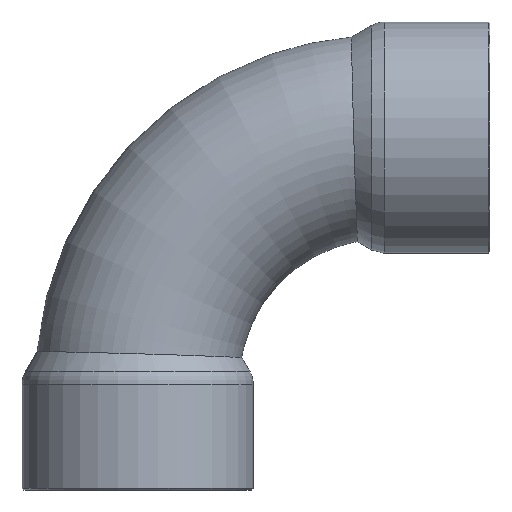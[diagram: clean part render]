
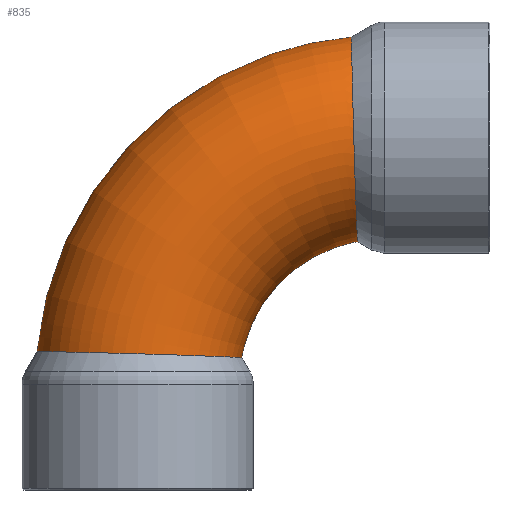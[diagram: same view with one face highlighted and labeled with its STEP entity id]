
A CAD part, left-side view. The second image highlights one B-rep face of the part: STEP entity #835.
In plain terms, the highlighted toroidal (fillet/blend) face has major radius 64.8 mm and minor radius 26.985 mm.
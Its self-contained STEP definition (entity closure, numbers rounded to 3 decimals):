
#446=CARTESIAN_POINT('',(0.,8.2,91.418));
#447=VERTEX_POINT('',#446);
#448=CARTESIAN_POINT('',(0.,8.2,91.418));
#449=CARTESIAN_POINT('',(1.909,8.2,91.418));
#450=CARTESIAN_POINT('',(3.813,8.196,91.215));
#451=CARTESIAN_POINT('',(7.507,8.18,90.418));
#452=CARTESIAN_POINT('',(9.288,8.168,89.834));
#453=CARTESIAN_POINT('',(14.252,8.122,87.615));
#454=CARTESIAN_POINT('',(17.188,8.079,85.526));
#455=CARTESIAN_POINT('',(22.078,7.964,80.327));
#456=CARTESIAN_POINT('',(23.984,7.894,77.268));
#457=CARTESIAN_POINT('',(26.504,7.728,70.581));
#458=CARTESIAN_POINT('',(27.09,7.635,67.019));
#459=CARTESIAN_POINT('',(26.849,7.428,59.855));
#460=CARTESIAN_POINT('',(26.018,7.318,56.324));
#461=CARTESIAN_POINT('',(23.079,7.097,49.891));
#462=CARTESIAN_POINT('',(21.038,6.99,47.032));
#463=CARTESIAN_POINT('',(15.909,6.793,42.169));
#464=CARTESIAN_POINT('',(12.84,6.708,40.241));
#465=CARTESIAN_POINT('',(7.524,6.616,38.233));
#466=CARTESIAN_POINT('',(5.487,6.591,37.724));
#467=CARTESIAN_POINT('',(2.058,6.571,37.285));
#468=CARTESIAN_POINT('',(0.694,6.567,37.214));
#469=CARTESIAN_POINT('',(-2.144,6.571,37.285));
#470=CARTESIAN_POINT('',(-3.614,6.578,37.444));
#471=CARTESIAN_POINT('',(-7.935,6.617,38.275));
#472=CARTESIAN_POINT('',(-10.698,6.665,39.294));
#473=CARTESIAN_POINT('',(-16.352,6.806,42.498));
#474=CARTESIAN_POINT('',(-19.079,6.905,44.86));
#475=CARTESIAN_POINT('',(-23.359,7.114,50.37));
#476=CARTESIAN_POINT('',(-24.923,7.222,53.428));
#477=CARTESIAN_POINT('',(-26.813,7.428,59.862));
#478=CARTESIAN_POINT('',(-27.159,7.526,63.174));
#479=CARTESIAN_POINT('',(-26.648,7.707,69.745));
#480=CARTESIAN_POINT('',(-25.799,7.788,72.95));
#481=CARTESIAN_POINT('',(-22.98,7.932,78.932));
#482=CARTESIAN_POINT('',(-21.022,7.994,81.652));
#483=CARTESIAN_POINT('',(-16.166,8.095,86.292));
#484=CARTESIAN_POINT('',(-13.294,8.133,88.152));
#485=CARTESIAN_POINT('',(-6.928,8.186,90.743));
#486=CARTESIAN_POINT('',(-3.481,8.2,91.418));
#487=CARTESIAN_POINT('',(0.0,8.2,91.418));
#488=B_SPLINE_CURVE_WITH_KNOTS('',3,(#448,#449,#450,#451,#452,#453,#454,#455,#456,#457,#458,#459,#460,#461,#462,#463,#464,#465,#466,#467,#468,#469,#470,#471,#472,#473,#474,#475,#476,#477,#478,#479,#480,#481,#482,#483,#484,#485,#486,#487),.UNSPECIFIED.,.T.,.U.,(4,2,2,2,2,2,2,2,2,2,2,2,2,2,2,2,2,2,2,4),(-17.035,-16.462,-15.902,-14.831,-13.76,-12.687,-11.609,-10.565,-9.488,-8.86,-8.451,-8.008,-7.131,-6.058,-5.037,-4.046,-3.059,-2.062,-1.044,0.0),.UNSPECIFIED.);
#489=EDGE_CURVE('',#447,#447,#488,.T.);
#692=CARTESIAN_POINT('',(0.0,91.418,8.2));
#693=VERTEX_POINT('',#692);
#694=CARTESIAN_POINT('',(0.0,91.418,8.2));
#695=CARTESIAN_POINT('',(-1.909,91.418,8.2));
#696=CARTESIAN_POINT('',(-3.813,91.215,8.196));
#697=CARTESIAN_POINT('',(-7.507,90.418,8.18));
#698=CARTESIAN_POINT('',(-9.288,89.834,8.168));
#699=CARTESIAN_POINT('',(-14.252,87.615,8.122));
#700=CARTESIAN_POINT('',(-17.188,85.526,8.079));
#701=CARTESIAN_POINT('',(-22.078,80.327,7.964));
#702=CARTESIAN_POINT('',(-23.984,77.268,7.894));
#703=CARTESIAN_POINT('',(-26.504,70.581,7.728));
#704=CARTESIAN_POINT('',(-27.09,67.019,7.635));
#705=CARTESIAN_POINT('',(-26.849,59.855,7.428));
#706=CARTESIAN_POINT('',(-26.018,56.324,7.318));
#707=CARTESIAN_POINT('',(-23.079,49.891,7.097));
#708=CARTESIAN_POINT('',(-21.038,47.032,6.99));
#709=CARTESIAN_POINT('',(-15.909,42.169,6.793));
#710=CARTESIAN_POINT('',(-12.84,40.241,6.708));
#711=CARTESIAN_POINT('',(-7.524,38.233,6.616));
#712=CARTESIAN_POINT('',(-5.487,37.724,6.591));
#713=CARTESIAN_POINT('',(-2.058,37.285,6.571));
#714=CARTESIAN_POINT('',(-0.694,37.214,6.567));
#715=CARTESIAN_POINT('',(2.144,37.285,6.571));
#716=CARTESIAN_POINT('',(3.614,37.444,6.578));
#717=CARTESIAN_POINT('',(7.935,38.275,6.617));
#718=CARTESIAN_POINT('',(10.698,39.294,6.665));
#719=CARTESIAN_POINT('',(16.352,42.498,6.806));
#720=CARTESIAN_POINT('',(19.079,44.86,6.905));
#721=CARTESIAN_POINT('',(23.359,50.37,7.114));
#722=CARTESIAN_POINT('',(24.923,53.428,7.222));
#723=CARTESIAN_POINT('',(26.813,59.862,7.428));
#724=CARTESIAN_POINT('',(27.159,63.174,7.526));
#725=CARTESIAN_POINT('',(26.648,69.745,7.707));
#726=CARTESIAN_POINT('',(25.799,72.95,7.788));
#727=CARTESIAN_POINT('',(22.98,78.932,7.932));
#728=CARTESIAN_POINT('',(21.022,81.652,7.994));
#729=CARTESIAN_POINT('',(16.166,86.292,8.095));
#730=CARTESIAN_POINT('',(13.294,88.152,8.133));
#731=CARTESIAN_POINT('',(6.928,90.743,8.186));
#732=CARTESIAN_POINT('',(3.481,91.418,8.2));
#733=CARTESIAN_POINT('',(0.,91.418,8.2));
#734=B_SPLINE_CURVE_WITH_KNOTS('',3,(#694,#695,#696,#697,#698,#699,#700,#701,#702,#703,#704,#705,#706,#707,#708,#709,#710,#711,#712,#713,#714,#715,#716,#717,#718,#719,#720,#721,#722,#723,#724,#725,#726,#727,#728,#729,#730,#731,#732,#733),.UNSPECIFIED.,.T.,.U.,(4,2,2,2,2,2,2,2,2,2,2,2,2,2,2,2,2,2,2,4),(-17.035,-16.462,-15.902,-14.831,-13.76,-12.687,-11.609,-10.565,-9.488,-8.86,-8.451,-8.008,-7.131,-6.058,-5.037,-4.046,-3.059,-2.062,-1.044,0.0),.UNSPECIFIED.);
#735=EDGE_CURVE('',#693,#693,#734,.T.);
#824=CARTESIAN_POINT('',(0.0,0.0,0.0));
#825=DIRECTION('',(1.0,0.0,0.0));
#826=DIRECTION('',(0.0,0.0,-1.0));
#827=AXIS2_PLACEMENT_3D('',#824,#825,#826);
#828=TOROIDAL_SURFACE('',#827,64.8,26.985);
#829=ORIENTED_EDGE('',*,*,#489,.T.);
#830=EDGE_LOOP('',(#829));
#831=FACE_OUTER_BOUND('',#830,.T.);
#832=ORIENTED_EDGE('',*,*,#735,.T.);
#833=EDGE_LOOP('',(#832));
#834=FACE_BOUND('',#833,.T.);
#835=ADVANCED_FACE('',(#831,#834),#828,.T.);
